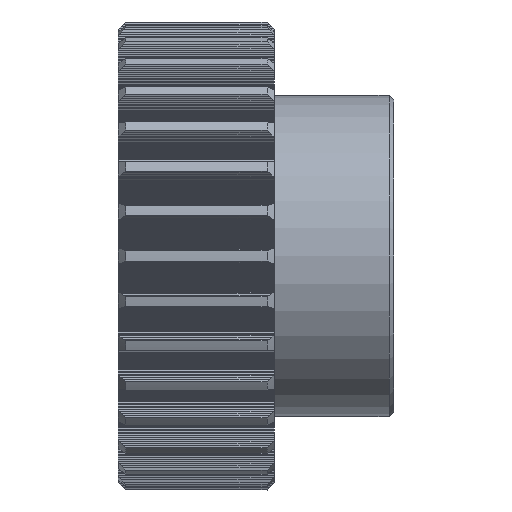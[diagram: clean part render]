
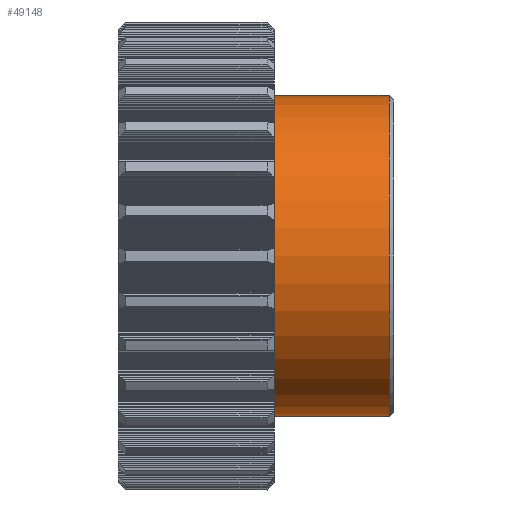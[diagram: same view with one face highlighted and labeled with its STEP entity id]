
A CAD part, front view. The second image highlights one B-rep face of the part: STEP entity #49148.
In plain terms, the highlighted cylindrical face has radius 17.5 mm (diameter 35 mm), a full revolution.
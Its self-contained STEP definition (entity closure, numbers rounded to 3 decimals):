
#5212=FACE_OUTER_BOUND('',#7591,.T.);
#7591=EDGE_LOOP('',(#46686,#46687,#46688,#46689,#46690));
#13998=LINE('',#78576,#20403);
#20403=VECTOR('',#63306,17.5);
#20500=CIRCLE('',#51472,17.5);
#20603=CIRCLE('',#51744,17.5);
#20604=CIRCLE('',#51745,17.5);
#25261=VERTEX_POINT('',#78020);
#25350=VERTEX_POINT('',#78567);
#25351=VERTEX_POINT('',#78569);
#32208=EDGE_CURVE('',#25261,#25261,#20500,.T.);
#32466=EDGE_CURVE('',#25350,#25351,#20603,.T.);
#32467=EDGE_CURVE('',#25351,#25350,#20604,.T.);
#32469=EDGE_CURVE('',#25351,#25261,#13998,.T.);
#46686=ORIENTED_EDGE('',*,*,#32466,.F.);
#46687=ORIENTED_EDGE('',*,*,#32467,.F.);
#46688=ORIENTED_EDGE('',*,*,#32469,.T.);
#46689=ORIENTED_EDGE('',*,*,#32208,.T.);
#46690=ORIENTED_EDGE('',*,*,#32469,.F.);
#46774=CYLINDRICAL_SURFACE('',#51748,17.5);
#49148=ADVANCED_FACE('',(#5212),#46774,.T.);
#51472=AXIS2_PLACEMENT_3D('',#78021,#62613,#62614);
#51744=AXIS2_PLACEMENT_3D('',#78570,#63296,#63297);
#51745=AXIS2_PLACEMENT_3D('',#78571,#63298,#63299);
#51748=AXIS2_PLACEMENT_3D('',#78575,#63304,#63305);
#62613=DIRECTION('center_axis',(1.,0.,0.));
#62614=DIRECTION('ref_axis',(0.,0.,-1.));
#63296=DIRECTION('center_axis',(1.,0.,0.));
#63297=DIRECTION('ref_axis',(0.,-1.,0.));
#63298=DIRECTION('center_axis',(1.,0.,0.));
#63299=DIRECTION('ref_axis',(0.,-1.,0.));
#63304=DIRECTION('center_axis',(1.,0.,0.));
#63305=DIRECTION('ref_axis',(0.,1.,0.));
#63306=DIRECTION('',(-1.,0.,0.));
#78020=CARTESIAN_POINT('',(17.,-17.5,0.));
#78021=CARTESIAN_POINT('Origin',(17.,0.,0.));
#78567=CARTESIAN_POINT('',(29.5,17.5,0.));
#78569=CARTESIAN_POINT('',(29.5,-17.5,0.));
#78570=CARTESIAN_POINT('Origin',(29.5,0.,0.));
#78571=CARTESIAN_POINT('Origin',(29.5,0.,0.));
#78575=CARTESIAN_POINT('Origin',(23.5,0.,0.));
#78576=CARTESIAN_POINT('',(23.5,-17.5,0.));
